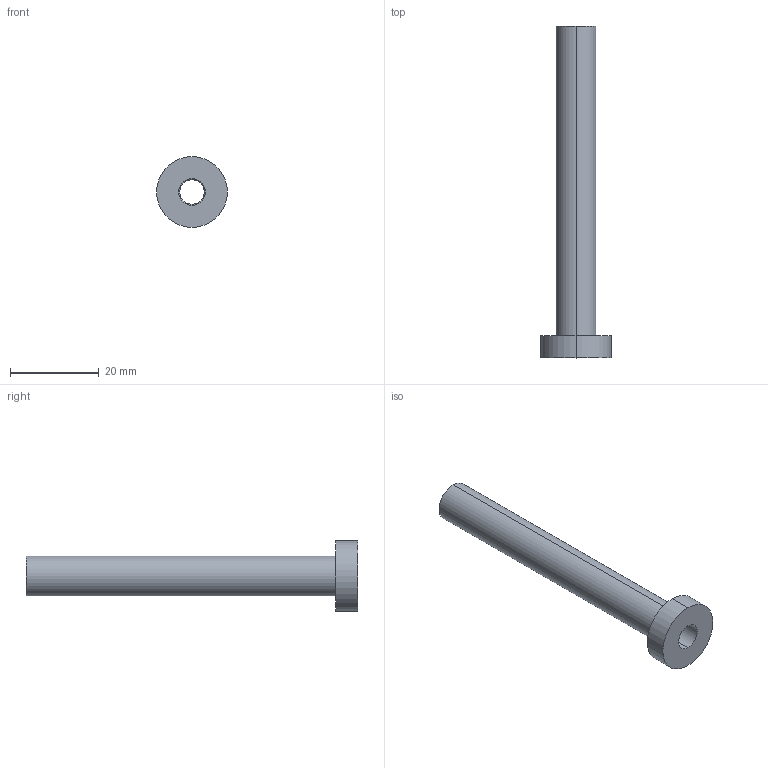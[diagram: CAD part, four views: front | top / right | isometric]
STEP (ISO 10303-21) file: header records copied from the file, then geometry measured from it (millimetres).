
FILE_DESCRIPTION (( 'STEP AP214' ), '1' );
FILE_NAME ('ET-ETN-5,5x75.STEP', '2019-12-16T16:51:36', ( 'August' ), ( '' ), 'SwSTEP 2.0', 'SolidWorks 2018', '' );
FILE_SCHEMA (( 'AUTOMOTIVE_DESIGN' ));
Length unit declared in the file: millimetre
Products named in the file (1): ET-ETN-5,5x75
Bounding box: 16 x 75 x 16 mm (x, y, z)
Volume: 3541.7 mm3; surface area: 3925.3 mm2
Topology: 1 solids, 1 shells, 13 faces, 26 edges, 16 vertices
Faces by surface type: cylinder 8, plane 3, cone 2
Entity records: 382 total; most frequent: DIRECTION 70, CARTESIAN_POINT 56, ORIENTED_EDGE 52, AXIS2_PLACEMENT_3D 30, EDGE_CURVE 26, CIRCLE 16, VERTEX_POINT 16, EDGE_LOOP 16
